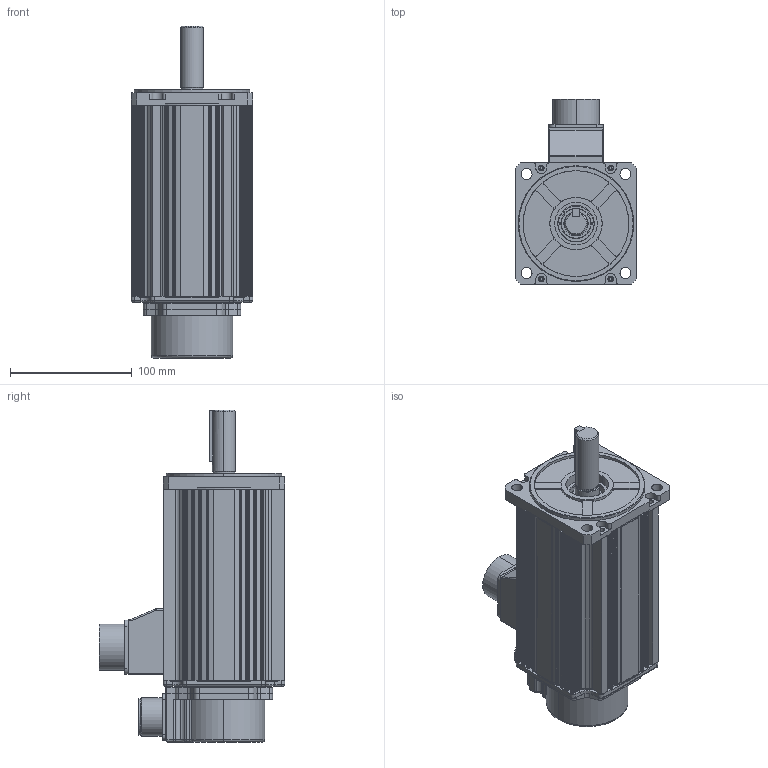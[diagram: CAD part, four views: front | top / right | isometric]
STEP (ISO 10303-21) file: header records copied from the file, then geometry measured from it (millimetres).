
FILE_DESCRIPTION (( 'STEP AP203' ), '1' );
FILE_NAME ('KANS-15DF2B2.STEP', '2023-05-25T07:14:34', ( '' ), ( '' ), 'SwSTEP 2.0', 'SolidWorks 2020', '' );
FILE_SCHEMA (( 'CONFIG_CONTROL_DESIGN' ));
Length unit declared in the file: millimetre
Products named in the file (12): KANS-15DF2B2; 10060024(Encoder Cover Adapter,__100,120)_____.STEP; 3102A 20-29P.STEP; 10060019(BRACKET).STEP; 10000429(GASKET __80).STEP; 10060022(ENCODER COVER,__100.__120,MS20-29P,2of2)_____.STEP; 10060021(FLANGE).STEP; CONNECTOR(24-11P)_____.STEP; SHAFT,__19x55,Key_____.STEP; CONNECTOR BOX_____ ____.STEP; FRAME(__100,157mm).STEP; 6X6X42.STEP
Assembly tree (11 placements, depth 2):
  KANS-15DF2B2
    FRAME(__100,157mm).STEP
    10060019(BRACKET).STEP
    10060021(FLANGE).STEP
    10060022(ENCODER COVER,__100.__120,MS20-29P,2of2)_____.STEP
    10060024(Encoder Cover Adapter,__100,120)_____.STEP
    CONNECTOR BOX_____ ____.STEP
    3102A 20-29P.STEP
    CONNECTOR(24-11P)_____.STEP
    SHAFT,__19x55,Key_____.STEP
    6X6X42.STEP
    10000429(GASKET __80).STEP
Bounding box: 100 x 152.42 x 272.9 mm (x, y, z)
Volume: 485852.8 mm3; surface area: 289657 mm2
Topology: 12 solids, 12 shells, 1722 faces, 4785 edges, 3123 vertices
Faces by surface type: plane 826, cylinder 759, cone 58, bspline 37, torus 36, sphere 6
Entity records: 59570 total; most frequent: CARTESIAN_POINT 13076, DIRECTION 9689, ORIENTED_EDGE 9478, EDGE_CURVE 4739, AXIS2_PLACEMENT_3D 3388, VERTEX_POINT 3123, VECTOR 2913, LINE 2913
